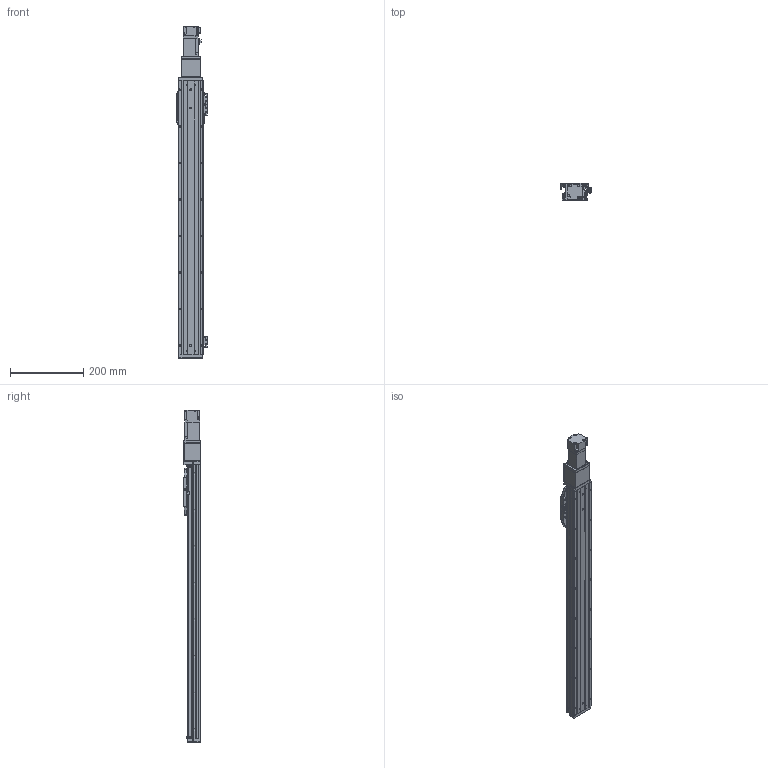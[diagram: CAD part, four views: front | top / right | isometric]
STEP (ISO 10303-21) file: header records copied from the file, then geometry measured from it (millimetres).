
FILE_DESCRIPTION (( 'STEP AP214' ), '1' );
FILE_NAME ('CTHA60-600-BC-M10-C4L.step', '2022-03-19T06:10:54', ( '微软用户' ), ( '微软中国' ), 'SwSTEP 2.0', 'SolidWorks 2020', '' );
FILE_SCHEMA (( 'AUTOMOTIVE_DESIGN' ));
Length unit declared in the file: millimetre
Products named in the file (19): CTHA60-021; GBT 70.1-M3℅6; CTHA60-027; HG-KR13（三菱）; CTHA60-004; CTHA60-600-BC-M10-C4L; EE_SX911P_R; GBT 70.1-M4×16; GBT 70.3-M3℅6; CTHA60-013; CTHA60-002; CTHA60-005; CTHA60-017; GBT77-2000 M3×3; CTHA60-016; CTHA60-006; CTHA60-001_750; CTHA60-031; GB¨uT 70.2-M3¡Á6_M3¡Á6
Assembly tree (57 placements, depth 2):
  CTHA60-600-BC-M10-C4L
    CTHA60-001_750
    CTHA60-004
    CTHA60-005
    GB¨uT 70.2-M3¡Á6_M3¡Á6  x10
    EE_SX911P_R  x3
    CTHA60-017  x3
    CTHA60-021  x2
    GBT 70.1-M4×16  x10
    GBT77-2000 M3×3  x6
    GBT 70.1-M3℅6  x6
    GBT 70.3-M3℅6  x6
    CTHA60-016  x2
    CTHA60-027
    CTHA60-013
    CTHA60-006
    HG-KR13（三菱）
    CTHA60-002
    CTHA60-031
Bounding box: 83.12 x 48 x 908.6 mm (x, y, z)
Volume: 1460312.6 mm3; surface area: 406725 mm2
Topology: 59 solids, 59 shells, 2475 faces, 5909 edges, 3623 vertices
Faces by surface type: plane 1438, cylinder 555, cone 362, torus 96, sphere 24
Entity records: 39756 total; most frequent: CARTESIAN_POINT 6704, DIRECTION 6602, ORIENTED_EDGE 6398, EDGE_CURVE 3199, LINE 2358, VECTOR 2358, AXIS2_PLACEMENT_3D 2122, VERTEX_POINT 2020
